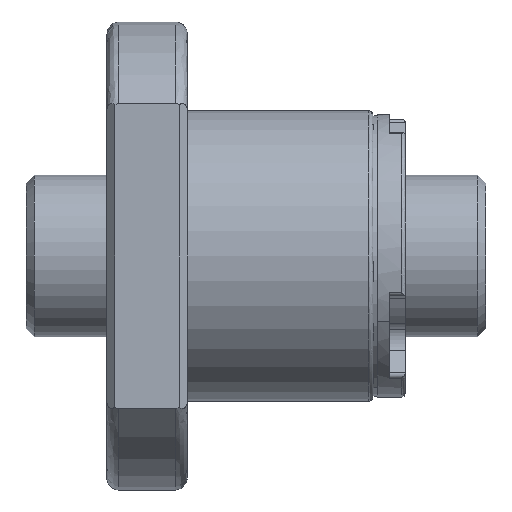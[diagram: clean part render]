
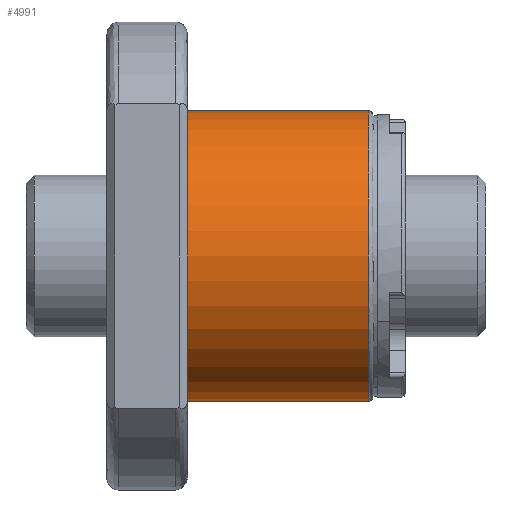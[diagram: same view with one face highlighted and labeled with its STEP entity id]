
A CAD part, front view. The second image highlights one B-rep face of the part: STEP entity #4991.
In plain terms, the highlighted cylindrical face has radius 18 mm (diameter 36 mm), a partial arc.
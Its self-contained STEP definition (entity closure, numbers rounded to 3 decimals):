
#37 = VERTEX_POINT ( 'NONE', #8304 ) ;
#90 = ORIENTED_EDGE ( 'NONE', *, *, #7872, .T. ) ;
#403 = EDGE_CURVE ( 'NONE', #2057, #7294, #3674, .T. ) ;
#637 = DIRECTION ( 'NONE',  ( -1., 0., 0. ) ) ;
#1349 = DIRECTION ( 'NONE',  ( 1., 0., 0. ) ) ;
#1369 = AXIS2_PLACEMENT_3D ( 'NONE', #2732, #4825, #2000 ) ;
#1417 = LINE ( 'NONE', #1525, #7065 ) ;
#1525 = CARTESIAN_POINT ( 'NONE',  ( 0., 0., 18. ) ) ;
#1815 = CIRCLE ( 'NONE', #8522, 18. ) ;
#1984 = FACE_OUTER_BOUND ( 'NONE', #7162, .T. ) ;
#2000 = DIRECTION ( 'NONE',  ( 0., 0., 1. ) ) ;
#2057 = VERTEX_POINT ( 'NONE', #5051 ) ;
#2732 = CARTESIAN_POINT ( 'NONE',  ( 0., 0., 0. ) ) ;
#2743 = EDGE_CURVE ( 'NONE', #4559, #7294, #7180, .T. ) ;
#2749 = CARTESIAN_POINT ( 'NONE',  ( 32.5, 0., -18. ) ) ;
#2862 = CARTESIAN_POINT ( 'NONE',  ( 0., 0., -18. ) ) ;
#3233 = EDGE_CURVE ( 'NONE', #37, #2057, #1417, .T. ) ;
#3590 = AXIS2_PLACEMENT_3D ( 'NONE', #4760, #1349, #6112 ) ;
#3674 = CIRCLE ( 'NONE', #3590, 18. ) ;
#4266 = DIRECTION ( 'NONE',  ( -1., 0., 0. ) ) ;
#4559 = VERTEX_POINT ( 'NONE', #2749 ) ;
#4760 = CARTESIAN_POINT ( 'NONE',  ( 10., 0., 0. ) ) ;
#4825 = DIRECTION ( 'NONE',  ( -1., 0., 0. ) ) ;
#4991 = ADVANCED_FACE ( 'NONE', ( #1984 ), #7111, .T. ) ;
#5051 = CARTESIAN_POINT ( 'NONE',  ( 10., 0., 18. ) ) ;
#6112 = DIRECTION ( 'NONE',  ( 0., 0., 1. ) ) ;
#6129 = VECTOR ( 'NONE', #7635, 1000. ) ;
#6413 = CARTESIAN_POINT ( 'NONE',  ( 10., 0., -18. ) ) ;
#6753 = DIRECTION ( 'NONE',  ( 0., 0., 1. ) ) ;
#7065 = VECTOR ( 'NONE', #4266, 1000. ) ;
#7111 = CYLINDRICAL_SURFACE ( 'NONE', #1369, 18. ) ;
#7162 = EDGE_LOOP ( 'NONE', ( #8719, #90, #7417, #8787 ) ) ;
#7180 = LINE ( 'NONE', #2862, #6129 ) ;
#7294 = VERTEX_POINT ( 'NONE', #6413 ) ;
#7375 = CARTESIAN_POINT ( 'NONE',  ( 32.5, 0., 0. ) ) ;
#7417 = ORIENTED_EDGE ( 'NONE', *, *, #3233, .T. ) ;
#7635 = DIRECTION ( 'NONE',  ( -1., 0., 0. ) ) ;
#7872 = EDGE_CURVE ( 'NONE', #4559, #37, #1815, .T. ) ;
#8304 = CARTESIAN_POINT ( 'NONE',  ( 32.5, 0., 18. ) ) ;
#8522 = AXIS2_PLACEMENT_3D ( 'NONE', #7375, #637, #6753 ) ;
#8719 = ORIENTED_EDGE ( 'NONE', *, *, #2743, .F. ) ;
#8787 = ORIENTED_EDGE ( 'NONE', *, *, #403, .T. ) ;
